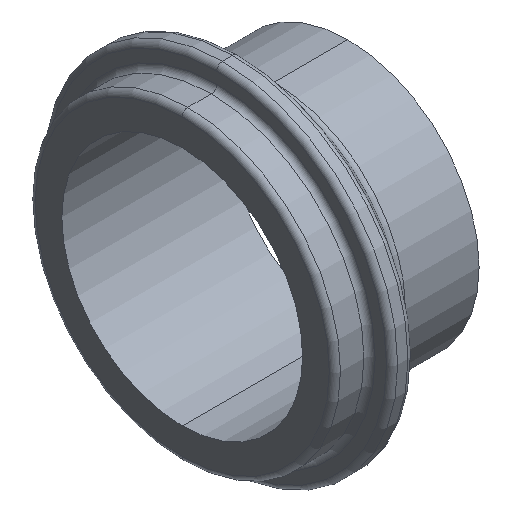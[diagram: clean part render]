
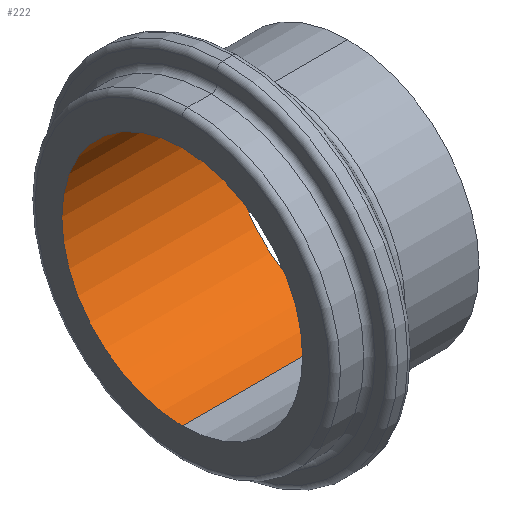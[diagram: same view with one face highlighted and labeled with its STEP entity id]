
A CAD part, isometric view. The second image highlights one B-rep face of the part: STEP entity #222.
In plain terms, the highlighted cylindrical face has radius 17.462 mm (diameter 34.925 mm), a partial arc.
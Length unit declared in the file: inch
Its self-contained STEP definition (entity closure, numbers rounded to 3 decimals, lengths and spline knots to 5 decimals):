
#4 = VECTOR ( 'NONE', #144, 39.37008 ) ;
#31 = CARTESIAN_POINT ( 'NONE',  ( 0., 0., 0.6875 ) ) ;
#39 = EDGE_LOOP ( 'NONE', ( #131, #497, #162, #107 ) ) ;
#107 = ORIENTED_EDGE ( 'NONE', *, *, #499, .T. ) ;
#110 = AXIS2_PLACEMENT_3D ( 'NONE', #572, #522, #576 ) ;
#122 = AXIS2_PLACEMENT_3D ( 'NONE', #635, #223, #424 ) ;
#131 = ORIENTED_EDGE ( 'NONE', *, *, #363, .F. ) ;
#136 = VERTEX_POINT ( 'NONE', #329 ) ;
#137 = DIRECTION ( 'NONE',  ( 0., 0., -1. ) ) ;
#144 = DIRECTION ( 'NONE',  ( 1., 0., 0. ) ) ;
#153 = CARTESIAN_POINT ( 'NONE',  ( 0., 0., 0. ) ) ;
#154 = CARTESIAN_POINT ( 'NONE',  ( 0., 0., 0.6875 ) ) ;
#156 = VERTEX_POINT ( 'NONE', #31 ) ;
#162 = ORIENTED_EDGE ( 'NONE', *, *, #520, .T. ) ;
#168 = EDGE_CURVE ( 'NONE', #272, #136, #436, .T. ) ;
#199 = VERTEX_POINT ( 'NONE', #639 ) ;
#204 = CIRCLE ( 'NONE', #280, 0.6875 ) ;
#222 = ADVANCED_FACE ( 'NONE', ( #367 ), #469, .F. ) ;
#223 = DIRECTION ( 'NONE',  ( 1., 0., 0. ) ) ;
#230 = CARTESIAN_POINT ( 'NONE',  ( 0., 0., -0.6875 ) ) ;
#272 = VERTEX_POINT ( 'NONE', #500 ) ;
#280 = AXIS2_PLACEMENT_3D ( 'NONE', #153, #352, #137 ) ;
#329 = CARTESIAN_POINT ( 'NONE',  ( -0.945, 0., 0.6875 ) ) ;
#352 = DIRECTION ( 'NONE',  ( 1., 0., 0. ) ) ;
#363 = EDGE_CURVE ( 'NONE', #136, #156, #440, .T. ) ;
#367 = FACE_OUTER_BOUND ( 'NONE', #39, .T. ) ;
#424 = DIRECTION ( 'NONE',  ( 0., 0., -1. ) ) ;
#431 = DIRECTION ( 'NONE',  ( 1., 0., 0. ) ) ;
#436 = CIRCLE ( 'NONE', #122, 0.6875 ) ;
#440 = LINE ( 'NONE', #154, #4 ) ;
#455 = VECTOR ( 'NONE', #431, 39.37008 ) ;
#469 = CYLINDRICAL_SURFACE ( 'NONE', #110, 0.6875 ) ;
#497 = ORIENTED_EDGE ( 'NONE', *, *, #168, .F. ) ;
#499 = EDGE_CURVE ( 'NONE', #199, #156, #204, .T. ) ;
#500 = CARTESIAN_POINT ( 'NONE',  ( -0.945, 0., -0.6875 ) ) ;
#520 = EDGE_CURVE ( 'NONE', #272, #199, #573, .T. ) ;
#522 = DIRECTION ( 'NONE',  ( 1., 0., 0. ) ) ;
#572 = CARTESIAN_POINT ( 'NONE',  ( 0., 0., 0. ) ) ;
#573 = LINE ( 'NONE', #230, #455 ) ;
#576 = DIRECTION ( 'NONE',  ( 0., 0., -1. ) ) ;
#635 = CARTESIAN_POINT ( 'NONE',  ( -0.945, 0., 0. ) ) ;
#639 = CARTESIAN_POINT ( 'NONE',  ( 0., 0., -0.6875 ) ) ;
